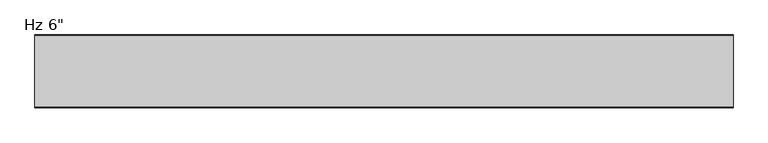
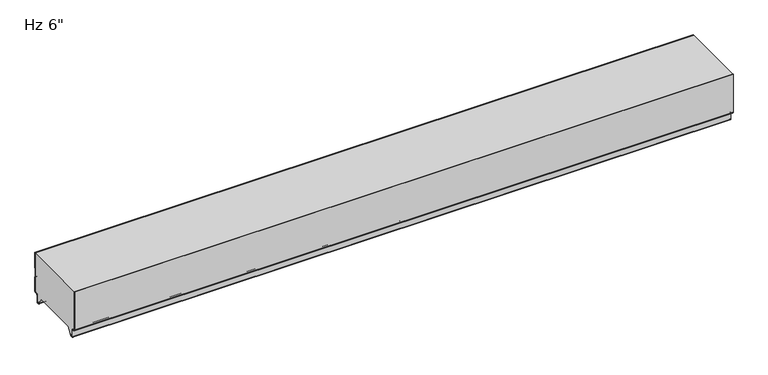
"""IFC4 building model written with IfcOpenShell, lengths in millimetres: plate geometry."""

from ifc_helpers import new_model, si_unit, frame, origin, place, context, project, spatial, polyline, circle_curve, source, transform, mapped, element, save
from ifc_brep_helpers import plane_surface, cylinder_surface, revolved_surface, advanced_brep


def plate_72227fcf(model_context):
    return source(origin(), model_context, "Body", "AdvancedBrep", [
        advanced_brep(
        [(-730.0, -1.0, 59.9218553), (-730.0, -1.0, 94.95), (-730.0, 0.0, 94.95), (-730.0, 0.0, 59.479416), (-730.0, -1.1911595, 58.4068912), (-730.0, -1.1911595, 39.5087751), (-730.0, 0.0, 38.4362503), (-730.0, 0.0, 5.8272193), (-730.0, -2.9772904, 2.8499526), (-730.0, -5.2691742, 2.8499526), (-730.0, -8.2464427, -0.1273159), (-730.0, -8.2464427, -15.7237419), (-730.0, -9.8343193, -17.3116185), (-730.0, -12.905868, -17.3116185), (-730.0, -14.4937445, -15.7237419), (-730.0, -14.4937445, -13.3687064), (-730.0, -13.4937445, -13.3687064), (-730.0, -13.4937445, -15.7237419), (-730.0, -12.905868, -16.3116185), (-730.0, -9.8343193, -16.3116185), (-730.0, -9.2464427, -15.7237419), (-730.0, -9.2464427, -0.1273159), (-730.0, -5.2691742, 3.8499526), (-730.0, -2.9772904, 3.8499526), (-730.0, -1.0000218, 5.82722), (-730.0, -1.0, 37.993811), (-730.0, -2.1911595, 39.0663358), (-730.0, -2.1911595, 58.8493305), (730.0, 0.0, 59.479416), (730.0, 0.0, 94.95), (730.0, -1.0, 94.95), (730.0, -1.0, 59.9218553), (730.0, -2.1911595, 58.8493305), (730.0, -2.1911595, 39.0663358), (730.0, -1.0, 37.993811), (730.0, -1.0, 5.82722), (730.0, -2.9772904, 3.8499526), (730.0, -5.2691742, 3.8499526), (730.0, -9.2464427, -0.1273159), (730.0, -9.2464427, -15.7237419), (730.0, -9.8343193, -16.3116185), (730.0, -12.905868, -16.3116185), (730.0, -13.4937445, -15.7237419), (730.0, -13.4937445, -13.3687064), (730.0, -14.4937445, -13.3687064), (730.0, -14.4937445, -15.7237419), (730.0, -12.905868, -17.3116185), (730.0, -9.8343193, -17.3116185), (730.0, -8.2464427, -15.7237419), (730.0, -8.2464427, -0.1273159), (730.0, -5.2691742, 2.8499526), (730.0, -2.9772904, 2.8499526), (730.0, -2.18e-05, 5.8272193), (730.0, 0.0, 38.4362503), (730.0, -1.1911595, 39.5087751), (730.0, -1.1911595, 58.4068912)],
        [
            (0, 1),
            (1, 2),
            (2, 3),
            (3, 4),
            (4, 5),
            (5, 6),
            (6, 7),
            (7, 8, circle_curve(frame((-730.0, -2.9772904, 5.8272211), z_axis=(-1.0, 0.0, 0.0), x_axis=(0.0, 1.0, 0.0)), 2.9772685)),
            (8, 9),
            (9, 10, circle_curve(frame((-730.0, -5.2691742, -0.1273159), z_axis=(1.0, 0.0, 0.0), x_axis=(0.0, 1.0, 0.0)), 2.9772685)),
            (10, 11),
            (11, 12, circle_curve(frame((-730.0, -9.8343193, -15.7237419), z_axis=(-1.0, 0.0, 0.0), x_axis=(0.0, 1.0, 0.0)), 1.5878765)),
            (12, 13),
            (13, 14, circle_curve(frame((-730.0, -12.905868, -15.7237419), z_axis=(-1.0, 0.0, 0.0), x_axis=(0.0, 1.0, 0.0)), 1.5878765)),
            (14, 15),
            (15, 16),
            (16, 17),
            (17, 18, circle_curve(frame((-730.0, -12.905868, -15.7237419), z_axis=(1.0, 0.0, 0.0), x_axis=(0.0, 1.0, 0.0)), 0.5878765)),
            (18, 19),
            (19, 20, circle_curve(frame((-730.0, -9.8343193, -15.7237419), z_axis=(1.0, 0.0, 0.0), x_axis=(0.0, 1.0, 0.0)), 0.5878765)),
            (20, 21),
            (21, 22, circle_curve(frame((-730.0, -5.2691742, -0.1273159), z_axis=(-1.0, 0.0, 0.0), x_axis=(0.0, 1.0, 0.0)), 3.9772685)),
            (22, 23),
            (23, 24, circle_curve(frame((-730.0, -2.9772904, 5.8272212), z_axis=(1.0, 0.0, 0.0), x_axis=(0.0, 1.0, 0.0)), 1.9772685)),
            (24, 25),
            (25, 26),
            (26, 27),
            (27, 0),
            (28, 29),
            (29, 30),
            (30, 31),
            (31, 32),
            (32, 33),
            (33, 34),
            (34, 35),
            (35, 36, circle_curve(frame((730.0, -2.9772904, 5.8272212), z_axis=(-1.0, 0.0, 0.0), x_axis=(0.0, 1.0, 0.0)), 1.9772685)),
            (36, 37),
            (37, 38, circle_curve(frame((730.0, -5.2691742, -0.1273159), z_axis=(1.0, 0.0, 0.0), x_axis=(0.0, 1.0, 0.0)), 3.9772685)),
            (38, 39),
            (39, 40, circle_curve(frame((730.0, -9.8343193, -15.7237419), z_axis=(-1.0, 0.0, 0.0), x_axis=(0.0, 1.0, 0.0)), 0.5878765)),
            (40, 41),
            (41, 42, circle_curve(frame((730.0, -12.905868, -15.7237419), z_axis=(-1.0, 0.0, 0.0), x_axis=(0.0, 1.0, 0.0)), 0.5878765)),
            (42, 43),
            (43, 44),
            (44, 45),
            (45, 46, circle_curve(frame((730.0, -12.905868, -15.7237419), z_axis=(1.0, 0.0, 0.0), x_axis=(0.0, 1.0, 0.0)), 1.5878765)),
            (46, 47),
            (47, 48, circle_curve(frame((730.0, -9.8343193, -15.7237419), z_axis=(1.0, 0.0, 0.0), x_axis=(0.0, 1.0, 0.0)), 1.5878765)),
            (48, 49),
            (49, 50, circle_curve(frame((730.0, -5.2691742, -0.1273159), z_axis=(-1.0, 0.0, 0.0), x_axis=(0.0, 1.0, 0.0)), 2.9772685)),
            (50, 51),
            (51, 52, circle_curve(frame((730.0, -2.9772904, 5.8272211), z_axis=(1.0, 0.0, 0.0), x_axis=(0.0, 1.0, 0.0)), 2.9772685)),
            (52, 53),
            (53, 54),
            (54, 55),
            (55, 28),
            (30, 1),
            (0, 31),
            (27, 32),
            (26, 33),
            (25, 34),
            (24, 35),
            (23, 36),
            (22, 37),
            (21, 38),
            (20, 39),
            (19, 40),
            (18, 41),
            (17, 42),
            (16, 43),
            (15, 44),
            (14, 45),
            (13, 46),
            (12, 47),
            (11, 48),
            (10, 49),
            (9, 50),
            (8, 51),
            (7, 52),
            (6, 53),
            (5, 54),
            (4, 55),
            (3, 28),
            (2, 29),
        ],
        [
            plane_surface(frame((-730.0, 0.0, 576.2625), z_axis=(-1.0, 0.0, 0.0), x_axis=(0.0, 1.0, 0.0))),
            plane_surface(frame((730.0, 0.0, 576.2625), z_axis=(1.0, 0.0, 0.0), x_axis=(0.0, 1.0, 0.0))),
            plane_surface(frame((-730.0, -1.0, 113.6164312), z_axis=(0.0, -1.0, 0.0), x_axis=(1.0, 0.0, 0.0))),
            plane_surface(frame((-730.0, -1.0, 59.9218553), z_axis=(0.0, -0.6691306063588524, 0.7431448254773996), x_axis=(1.0, 0.0, 0.0))),
            plane_surface(frame((-730.0, -2.1911595, 58.8493305), z_axis=(0.0, -1.0, 0.0), x_axis=(1.0, 0.0, 0.0))),
            plane_surface(frame((-730.0, -2.1911595, 39.0663358), z_axis=(0.0, -0.6691306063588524, -0.7431448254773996), x_axis=(1.0, 0.0, 0.0))),
            plane_surface(frame((-730.0, -1.0, 37.993811), z_axis=(0.0, -1.0, 0.0), x_axis=(1.0, 0.0, 0.0))),
            revolved_surface(polyline([(730.0, -1.0000218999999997, 5.8272212), (-730.0, -1.0000218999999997, 5.8272212)]), (-730.0, -2.9772904, 5.8272212), (1.0, 0.0, 0.0)),
            plane_surface(frame((-730.0, -2.9772904, 3.8499526), z_axis=(0.0, 0.0, 1.0), x_axis=(1.0, 0.0, 0.0))),
            cylinder_surface(frame((-730.0, -5.2691742, -0.1273159), z_axis=(-1.0, 0.0, 0.0), x_axis=(0.0, 1.0, 0.0)), 3.9772685),
            plane_surface(frame((-730.0, -9.2464427, -0.1273159), z_axis=(0.0, -1.0, 0.0), x_axis=(1.0, 0.0, 0.0))),
            revolved_surface(polyline([(730.0, -9.2464428, -15.7237419), (-730.0, -9.2464428, -15.7237419)]), (-730.0, -9.8343193, -15.7237419), (1.0, 0.0, 0.0)),
            plane_surface(frame((-730.0, -9.8343193, -16.3116185), z_axis=(0.0, 0.0, 1.0), x_axis=(1.0, 0.0, 0.0))),
            revolved_surface(polyline([(730.0, -12.3179915, -15.7237419), (-730.0, -12.3179915, -15.7237419)]), (-730.0, -12.905868, -15.7237419), (1.0, 0.0, 0.0)),
            plane_surface(frame((-730.0, -13.4937445, -15.7237419), z_axis=(0.0, 1.0, 0.0), x_axis=(1.0, 0.0, 0.0))),
            plane_surface(frame((-730.0, -13.4937445, -13.3687064), z_axis=(0.0, 0.0, 1.0), x_axis=(1.0, 0.0, 0.0))),
            plane_surface(frame((-730.0, -14.4937445, -13.3687064), z_axis=(0.0, -1.0, 0.0), x_axis=(1.0, 0.0, 0.0))),
            cylinder_surface(frame((-730.0, -12.905868, -15.7237419), z_axis=(-1.0, 0.0, 0.0), x_axis=(0.0, 1.0, 0.0)), 1.5878765),
            plane_surface(frame((-730.0, -12.905868, -17.3116185), z_axis=(0.0, 0.0, -1.0), x_axis=(1.0, 0.0, 0.0))),
            cylinder_surface(frame((-730.0, -9.8343193, -15.7237419), z_axis=(-1.0, 0.0, 0.0), x_axis=(0.0, 1.0, 0.0)), 1.5878765),
            plane_surface(frame((-730.0, -8.2464427, -15.7237419), z_axis=(0.0, 1.0, 0.0), x_axis=(1.0, 0.0, 0.0))),
            revolved_surface(polyline([(730.0, -2.2919057, -0.1273159), (-730.0, -2.2919057, -0.1273159)]), (-730.0, -5.2691742, -0.1273159), (1.0, 0.0, 0.0)),
            plane_surface(frame((-730.0, -5.2691742, 2.8499526), z_axis=(0.0, 0.0, -1.0), x_axis=(1.0, 0.0, 0.0))),
            cylinder_surface(frame((-730.0, -2.9772904, 5.8272211), z_axis=(-1.0, 0.0, 0.0), x_axis=(0.0, 1.0, 0.0)), 2.9772685),
            plane_surface(frame((-730.0, 0.0, 5.8272193), z_axis=(0.0, 1.0, 0.0), x_axis=(1.0, 0.0, 0.0))),
            plane_surface(frame((-730.0, 0.0, 38.4362503), z_axis=(0.0, 0.6691306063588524, 0.7431448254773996), x_axis=(1.0, 0.0, 0.0))),
            plane_surface(frame((-730.0, -1.1911595, 39.5087751), z_axis=(0.0, 1.0, 0.0), x_axis=(1.0, 0.0, 0.0))),
            plane_surface(frame((-730.0, -1.1911595, 58.4068912), z_axis=(0.0, 0.6691306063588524, -0.7431448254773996), x_axis=(1.0, 0.0, 0.0))),
            plane_surface(frame((-730.0, 0.0, 59.479416), z_axis=(0.0, 1.0, 0.0), x_axis=(1.0, 0.0, 0.0))),
            plane_surface(frame((730.0, 10.0, 94.95), z_axis=(0.0, 0.0, 1.0), x_axis=(-1.0, 0.0, 0.0))),
        ],
        [
            (0, [[1, 2, 3, 4, 5, 6, 7, 8, 9, 10, 11, 12, 13, 14, 15, 16, 17, 18, 19, 20, 21, 22, 23, 24, 25, 26, 27, 28]]),
            (1, [[29, 30, 31, 32, 33, 34, 35, 36, 37, 38, 39, 40, 41, 42, 43, 44, 45, 46, 47, 48, 49, 50, 51, 52, 53, 54, 55, 56]]),
            (2, [[-31, 57, -1, 58]]),
            (3, [[59, -32, -58, -28]]),
            (4, [[60, -33, -59, -27]]),
            (5, [[61, -34, -60, -26]]),
            (6, [[62, -35, -61, -25]]),
            (7, [[63, -36, -62, -24]]),
            (8, [[64, -37, -63, -23]]),
            (9, [[65, -38, -64, -22]]),
            (10, [[66, -39, -65, -21]]),
            (11, [[67, -40, -66, -20]]),
            (12, [[68, -41, -67, -19]]),
            (13, [[69, -42, -68, -18]]),
            (14, [[70, -43, -69, -17]]),
            (15, [[71, -44, -70, -16]]),
            (16, [[72, -45, -71, -15]]),
            (17, [[73, -46, -72, -14]]),
            (18, [[74, -47, -73, -13]]),
            (19, [[75, -48, -74, -12]]),
            (20, [[76, -49, -75, -11]]),
            (21, [[77, -50, -76, -10]]),
            (22, [[78, -51, -77, -9]]),
            (23, [[79, -52, -78, -8]]),
            (24, [[80, -53, -79, -7]]),
            (25, [[81, -54, -80, -6]]),
            (26, [[82, -55, -81, -5]]),
            (27, [[83, -56, -82, -4]]),
            (28, [[-3, 84, -29, -83]]),
            (29, [[-57, -30, -84, -2]]),
        ],
    ),
        advanced_brep(
        [(-730.0, -149.4223811, 3.8501063), (-730.0, -147.1308685, 3.8501063), (-730.0, -143.1535232, -0.1272391), (-730.0, -143.1535232, -15.7237514), (-730.0, -142.565666, -16.3116086), (-730.0, -139.4941346, -16.3116086), (-730.0, -138.9062635, -15.7237374), (-730.0, -138.9062635, -13.3687064), (-730.0, -137.9062599, -13.3687064), (-730.0, -137.9062599, -15.7237419), (-730.0, -139.4941364, -17.3116185), (-730.0, -142.5656851, -17.3116185), (-730.0, -144.1535616, -15.7237419), (-730.0, -144.1535616, -0.1273159), (-730.0, -147.1308302, 2.8499526), (-730.0, -149.422714, 2.8499526), (-730.0, -152.3999825, 5.8272211), (-730.0, -152.4, 94.95), (-730.0, -151.3992912, 94.95), (-730.0, -151.3992912, 5.8270163), (730.0, -149.4223811, 3.8501063), (730.0, -151.3992912, 5.8270163), (730.0, -151.3992912, 94.95), (730.0, -152.4, 94.95), (730.0, -152.4, 5.8272211), (730.0, -149.422714, 2.8499526), (730.0, -147.1308302, 2.8499526), (730.0, -144.1535616, -0.1273159), (730.0, -144.1535616, -15.7237419), (730.0, -142.5656851, -17.3116185), (730.0, -139.4941364, -17.3116185), (730.0, -137.9062599, -15.7237419), (730.0, -137.9062599, -13.3687064), (730.0, -138.9062635, -13.3687064), (730.0, -138.9062635, -15.7237374), (730.0, -139.4941346, -16.3116086), (730.0, -142.565666, -16.3116086), (730.0, -143.1535232, -15.7237514), (730.0, -143.1535232, -0.1272391), (730.0, -147.1308685, 3.8501063)],
        [
            (0, 1),
            (1, 2, circle_curve(frame((-730.0, -147.1308685, -0.1272391), z_axis=(-1.0, 0.0, 0.0), x_axis=(0.0, 0.0, -1.0)), 3.9773454)),
            (2, 3),
            (3, 4, circle_curve(frame((-730.0, -142.565666, -15.7237514), z_axis=(1.0, 0.0, 0.0), x_axis=(0.0, 0.0, -1.0)), 0.5878572)),
            (4, 5),
            (5, 6, circle_curve(frame((-730.0, -139.4941346, -15.7237374), z_axis=(1.0, 0.0, 0.0), x_axis=(0.0, 0.0, -1.0)), 0.5878711)),
            (6, 7),
            (7, 8),
            (8, 9),
            (9, 10, circle_curve(frame((-730.0, -139.4941364, -15.7237419), z_axis=(-1.0, 0.0, 0.0), x_axis=(0.0, 0.0, -1.0)), 1.5878765)),
            (10, 11),
            (11, 12, circle_curve(frame((-730.0, -142.5656851, -15.7237419), z_axis=(-1.0, 0.0, 0.0), x_axis=(0.0, 0.0, -1.0)), 1.5878765)),
            (12, 13),
            (13, 14, circle_curve(frame((-730.0, -147.1308302, -0.1273159), z_axis=(1.0, 0.0, 0.0), x_axis=(0.0, 0.0, -1.0)), 2.9772685)),
            (14, 15),
            (15, 16, circle_curve(frame((-730.0, -149.422714, 5.8272211), z_axis=(-1.0, 0.0, 0.0), x_axis=(0.0, 0.0, -1.0)), 2.9772685)),
            (16, 17),
            (17, 18),
            (18, 19),
            (19, 0, circle_curve(frame((-730.0, -149.4223811, 5.8270163), z_axis=(1.0, 0.0, 0.0), x_axis=(0.0, 0.0, -1.0)), 1.9769101)),
            (20, 21, circle_curve(frame((730.0, -149.4223811, 5.8270163), z_axis=(-1.0, 0.0, 0.0), x_axis=(0.0, 0.0, -1.0)), 1.9769101)),
            (21, 22),
            (22, 23),
            (23, 24),
            (24, 25, circle_curve(frame((730.0, -149.422714, 5.8272211), z_axis=(1.0, 0.0, 0.0), x_axis=(0.0, 0.0, -1.0)), 2.9772685)),
            (25, 26),
            (26, 27, circle_curve(frame((730.0, -147.1308302, -0.1273159), z_axis=(-1.0, 0.0, 0.0), x_axis=(0.0, 0.0, -1.0)), 2.9772685)),
            (27, 28),
            (28, 29, circle_curve(frame((730.0, -142.5656851, -15.7237419), z_axis=(1.0, 0.0, 0.0), x_axis=(0.0, 0.0, -1.0)), 1.5878765)),
            (29, 30),
            (30, 31, circle_curve(frame((730.0, -139.4941364, -15.7237419), z_axis=(1.0, 0.0, 0.0), x_axis=(0.0, 0.0, -1.0)), 1.5878765)),
            (31, 32),
            (32, 33),
            (33, 34),
            (34, 35, circle_curve(frame((730.0, -139.4941346, -15.7237374), z_axis=(-1.0, 0.0, 0.0), x_axis=(0.0, 0.0, -1.0)), 0.5878711)),
            (35, 36),
            (36, 37, circle_curve(frame((730.0, -142.565666, -15.7237514), z_axis=(-1.0, 0.0, 0.0), x_axis=(0.0, 0.0, -1.0)), 0.5878572)),
            (37, 38),
            (38, 39, circle_curve(frame((730.0, -147.1308685, -0.1272391), z_axis=(1.0, 0.0, 0.0), x_axis=(0.0, 0.0, -1.0)), 3.9773454)),
            (39, 20),
            (17, 23),
            (22, 18),
            (19, 21),
            (20, 0),
            (16, 24),
            (15, 25),
            (14, 26),
            (13, 27),
            (12, 28),
            (11, 29),
            (10, 30),
            (9, 31),
            (8, 32),
            (7, 33),
            (6, 34),
            (5, 35),
            (4, 36),
            (3, 37),
            (2, 38),
            (1, 39),
        ],
        [
            plane_surface(frame((-730.0, -152.4, 576.2625), z_axis=(-1.0, 0.0, 0.0), x_axis=(0.0, -1.0, 0.0))),
            plane_surface(frame((730.0, -152.4, 576.2625), z_axis=(1.0, 0.0, 0.0), x_axis=(0.0, -1.0, 0.0))),
            plane_surface(frame((730.0, 10.0, 94.95), z_axis=(0.0, 0.0, 1.0), x_axis=(-1.0, 0.0, 0.0))),
            revolved_surface(polyline([(730.0, -149.4223811, 3.8501062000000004), (-730.0, -149.4223811, 3.8501062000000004)]), (-730.0, -149.4223811, 5.8270163), (1.0, 0.0, 0.0)),
            plane_surface(frame((-730.0, -151.3992912, 5.8270163), z_axis=(0.0, 1.0, 0.0), x_axis=(1.0, 0.0, 0.0))),
            plane_surface(frame((-730.0, -152.4, 1150.8100652), z_axis=(0.0, -1.0, 0.0), x_axis=(1.0, 0.0, 0.0))),
            cylinder_surface(frame((-730.0, -149.422714, 5.8272211), z_axis=(-1.0, 0.0, 0.0), x_axis=(0.0, 0.0, -1.0)), 2.9772685),
            plane_surface(frame((-730.0, -149.422714, 2.8499526), z_axis=(0.0, 0.0, -1.0), x_axis=(1.0, 0.0, 0.0))),
            revolved_surface(polyline([(730.0, -147.1308302, -3.1045844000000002), (-730.0, -147.1308302, -3.1045844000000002)]), (-730.0, -147.1308302, -0.1273159), (1.0, 0.0, 0.0)),
            plane_surface(frame((-730.0, -144.1535616, -0.1273159), z_axis=(0.0, -1.0, 0.0), x_axis=(1.0, 0.0, 0.0))),
            cylinder_surface(frame((-730.0, -142.5656851, -15.7237419), z_axis=(-1.0, 0.0, 0.0), x_axis=(0.0, 0.0, -1.0)), 1.5878765),
            plane_surface(frame((-730.0, -142.5656851, -17.3116185), z_axis=(0.0, 0.0, -1.0), x_axis=(1.0, 0.0, 0.0))),
            cylinder_surface(frame((-730.0, -139.4941364, -15.7237419), z_axis=(-1.0, 0.0, 0.0), x_axis=(0.0, 0.0, -1.0)), 1.5878765),
            plane_surface(frame((-730.0, -137.9062599, -15.7237419), z_axis=(0.0, 1.0, 0.0), x_axis=(1.0, 0.0, 0.0))),
            plane_surface(frame((-730.0, -137.9062599, -13.3687064), z_axis=(0.0, 0.0, 1.0), x_axis=(1.0, 0.0, 0.0))),
            plane_surface(frame((-730.0, -138.9062635, -13.3687064), z_axis=(0.0, -1.0, 0.0), x_axis=(1.0, 0.0, 0.0))),
            revolved_surface(polyline([(730.0, -139.4941346, -16.3116085), (-730.0, -139.4941346, -16.3116085)]), (-730.0, -139.4941346, -15.7237374), (1.0, 0.0, 0.0)),
            plane_surface(frame((-730.0, -139.4941346, -16.3116086), z_axis=(0.0, 0.0, 1.0), x_axis=(1.0, 0.0, 0.0))),
            revolved_surface(polyline([(730.0, -142.565666, -16.3116086), (-730.0, -142.565666, -16.3116086)]), (-730.0, -142.565666, -15.7237514), (1.0, 0.0, 0.0)),
            plane_surface(frame((-730.0, -143.1535232, -15.7237514), z_axis=(0.0, 1.0, 0.0), x_axis=(1.0, 0.0, 0.0))),
            cylinder_surface(frame((-730.0, -147.1308685, -0.1272391), z_axis=(-1.0, 0.0, 0.0), x_axis=(0.0, 0.0, -1.0)), 3.9773454),
            plane_surface(frame((-730.0, -147.1308685, 3.8501063), z_axis=(0.0, 0.0, 1.0), x_axis=(1.0, 0.0, 0.0))),
        ],
        [
            (0, [[1, 2, 3, 4, 5, 6, 7, 8, 9, 10, 11, 12, 13, 14, 15, 16, 17, 18, 19, 20]]),
            (1, [[21, 22, 23, 24, 25, 26, 27, 28, 29, 30, 31, 32, 33, 34, 35, 36, 37, 38, 39, 40]]),
            (2, [[41, -23, 42, -18]]),
            (3, [[43, -21, 44, -20]]),
            (4, [[-19, -42, -22, -43]]),
            (5, [[-24, -41, -17, 45]]),
            (6, [[46, -25, -45, -16]]),
            (7, [[47, -26, -46, -15]]),
            (8, [[48, -27, -47, -14]]),
            (9, [[49, -28, -48, -13]]),
            (10, [[50, -29, -49, -12]]),
            (11, [[51, -30, -50, -11]]),
            (12, [[52, -31, -51, -10]]),
            (13, [[53, -32, -52, -9]]),
            (14, [[54, -33, -53, -8]]),
            (15, [[55, -34, -54, -7]]),
            (16, [[56, -35, -55, -6]]),
            (17, [[57, -36, -56, -5]]),
            (18, [[58, -37, -57, -4]]),
            (19, [[59, -38, -58, -3]]),
            (20, [[60, -39, -59, -2]]),
            (21, [[-44, -40, -60, -1]]),
        ],
    ),
        advanced_brep(
        [(-730.0, -149.4227194, 3.8499499), (-730.0, -151.3999935, 5.8272239), (-730.0, -151.4, 94.95), (-730.0, -1.0, 94.95), (-730.0, -1.0, 59.9218553), (-730.0, -2.1911595, 58.8493305), (-730.0, -2.1911595, 39.0663358), (-730.0, -1.0000109, 37.993811), (-730.0, -1.0000109, 5.8272239), (-730.0, -2.9772849, 3.8499499), (-730.0, -5.2691749, 3.8499499), (-730.0, -9.246442, -0.1273173), (-730.0, -9.246442, -15.7237417), (-730.0, -9.8343189, -16.3116186), (-730.0, -12.9058679, -16.3116186), (-730.0, -13.4937446, -15.723742), (-730.0, -13.4937446, -13.3687064), (-730.0, -14.4937446, -13.3687064), (-730.0, -14.4937446, -15.6582851), (-730.0, -23.7509179, 0.0), (-730.0, -128.6490865, 0.0), (-730.0, -137.9062598, -15.6582851), (-730.0, -137.9062598, -13.3687064), (-730.0, -138.9062598, -13.3687064), (-730.0, -138.9062598, -15.723742), (-730.0, -139.4941365, -16.3116186), (-730.0, -142.5656854, -16.3116186), (-730.0, -143.1535623, -15.7237417), (-730.0, -143.1535623, -0.1273173), (-730.0, -147.1308295, 3.8499499), (730.0, -149.4227194, 3.8499499), (730.0, -147.1308295, 3.8499499), (730.0, -143.1535623, -0.1273173), (730.0, -143.1535623, -15.7237417), (730.0, -142.5656854, -16.3116186), (730.0, -139.4941365, -16.3116186), (730.0, -138.9062598, -15.723742), (730.0, -138.9062598, -13.3687064), (730.0, -137.9062598, -13.3687064), (730.0, -137.9062598, -15.6582851), (730.0, -128.6490865, 0.0), (730.0, -23.7509179, 0.0), (730.0, -14.4937446, -15.6582851), (730.0, -14.4937446, -13.3687064), (730.0, -13.4937446, -13.3687064), (730.0, -13.4937446, -15.723742), (730.0, -12.9058679, -16.3116186), (730.0, -9.8343189, -16.3116186), (730.0, -9.246442, -15.7237417), (730.0, -9.246442, -0.1273173), (730.0, -5.2691749, 3.8499499), (730.0, -2.9772849, 3.8499499), (730.0, -1.0000109, 5.8272239), (730.0, -1.0000109, 37.993811), (730.0, -2.1911595, 39.0663358), (730.0, -2.1911595, 58.8493305), (730.0, -1.0, 59.9218553), (730.0, -1.0, 94.95), (730.0, -151.4, 94.95), (730.0, -151.4, 5.8272239)],
        [
            (0, 1, circle_curve(frame((-730.0, -149.4227194, 5.8272239), z_axis=(-1.0, 0.0, 0.0), x_axis=(0.0, 0.0, -1.0)), 1.977274)),
            (1, 2),
            (2, 3),
            (3, 4),
            (4, 5),
            (5, 6),
            (6, 7),
            (7, 8),
            (8, 9, circle_curve(frame((-730.0, -2.9772849, 5.8272239), z_axis=(-1.0, 0.0, 0.0), x_axis=(0.0, 1.0, 0.0)), 1.977274)),
            (9, 10),
            (10, 11, circle_curve(frame((-730.0, -5.2691749, -0.1273173), z_axis=(1.0, 0.0, 0.0), x_axis=(0.0, 1.0, 0.0)), 3.9772671)),
            (11, 12),
            (12, 13, circle_curve(frame((-730.0, -9.8343189, -15.7237417), z_axis=(-1.0, 0.0, 0.0), x_axis=(0.0, 1.0, 0.0)), 0.5878769)),
            (13, 14),
            (14, 15, circle_curve(frame((-730.0, -12.9058679, -15.723742), z_axis=(-1.0, 0.0, 0.0), x_axis=(0.0, 1.0, 0.0)), 0.5878766)),
            (15, 16),
            (16, 17),
            (17, 18),
            (18, 19),
            (19, 20),
            (20, 21),
            (21, 22),
            (22, 23),
            (23, 24),
            (24, 25, circle_curve(frame((-730.0, -139.4941365, -15.723742), z_axis=(-1.0, 0.0, 0.0), x_axis=(0.0, 0.0, -1.0)), 0.5878766)),
            (25, 26),
            (26, 27, circle_curve(frame((-730.0, -142.5656854, -15.7237417), z_axis=(-1.0, 0.0, 0.0), x_axis=(0.0, 0.0, -1.0)), 0.5878769)),
            (27, 28),
            (28, 29, circle_curve(frame((-730.0, -147.1308295, -0.1273173), z_axis=(1.0, 0.0, 0.0), x_axis=(0.0, 0.0, -1.0)), 3.9772671)),
            (29, 0),
            (30, 31),
            (31, 32, circle_curve(frame((730.0, -147.1308295, -0.1273173), z_axis=(-1.0, 0.0, 0.0), x_axis=(0.0, 0.0, -1.0)), 3.9772671)),
            (32, 33),
            (33, 34, circle_curve(frame((730.0, -142.5656854, -15.7237417), z_axis=(1.0, 0.0, 0.0), x_axis=(0.0, 0.0, -1.0)), 0.5878769)),
            (34, 35),
            (35, 36, circle_curve(frame((730.0, -139.4941365, -15.723742), z_axis=(1.0, 0.0, 0.0), x_axis=(0.0, 0.0, -1.0)), 0.5878766)),
            (36, 37),
            (37, 38),
            (38, 39),
            (39, 40),
            (40, 41),
            (41, 42),
            (42, 43),
            (43, 44),
            (44, 45),
            (45, 46, circle_curve(frame((730.0, -12.9058679, -15.723742), z_axis=(1.0, 0.0, 0.0), x_axis=(0.0, 1.0, 0.0)), 0.5878766)),
            (46, 47),
            (47, 48, circle_curve(frame((730.0, -9.8343189, -15.7237417), z_axis=(1.0, 0.0, 0.0), x_axis=(0.0, 1.0, 0.0)), 0.5878769)),
            (48, 49),
            (49, 50, circle_curve(frame((730.0, -5.2691749, -0.1273173), z_axis=(-1.0, 0.0, 0.0), x_axis=(0.0, 1.0, 0.0)), 3.9772671)),
            (50, 51),
            (51, 52, circle_curve(frame((730.0, -2.9772849, 5.8272239), z_axis=(1.0, 0.0, 0.0), x_axis=(0.0, 1.0, 0.0)), 1.977274)),
            (52, 53),
            (53, 54),
            (54, 55),
            (55, 56),
            (56, 57),
            (57, 58),
            (58, 59),
            (59, 30, circle_curve(frame((730.0, -149.4227194, 5.8272239), z_axis=(1.0, 0.0, 0.0), x_axis=(0.0, 0.0, -1.0)), 1.977274)),
            (18, 42),
            (41, 19),
            (17, 43),
            (16, 44),
            (15, 45),
            (14, 46),
            (13, 47),
            (12, 48),
            (11, 49),
            (10, 50),
            (9, 51),
            (8, 52),
            (7, 53),
            (6, 54),
            (5, 55),
            (4, 56),
            (3, 57),
            (40, 20),
            (2, 58),
            (29, 31),
            (30, 0),
            (28, 32),
            (27, 33),
            (26, 34),
            (25, 35),
            (24, 36),
            (23, 37),
            (22, 38),
            (21, 39),
            (1, 59),
        ],
        [
            plane_surface(frame((-730.0, -151.4, 576.2625), z_axis=(-1.0, 0.0, 0.0), x_axis=(0.0, -1.0, 0.0))),
            plane_surface(frame((730.0, -151.4, 576.2625), z_axis=(1.0, 0.0, 0.0), x_axis=(0.0, -1.0, 0.0))),
            plane_surface(frame((-730.0, -23.7509179, 0.0), z_axis=(0.0, -0.8608169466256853, -0.5089147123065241), x_axis=(1.0, 0.0, 0.0))),
            plane_surface(frame((-730.0, -14.4937446, -15.6582851), z_axis=(0.0, 1.0, 0.0), x_axis=(1.0, 0.0, 0.0))),
            plane_surface(frame((-730.0, -14.4937446, -13.3687064), z_axis=(0.0, 0.0, -1.0), x_axis=(1.0, 0.0, 0.0))),
            plane_surface(frame((-730.0, -13.4937446, -13.3687064), z_axis=(0.0, -1.0, 0.0), x_axis=(1.0, 0.0, 0.0))),
            cylinder_surface(frame((-730.0, -12.9058679, -15.723742), z_axis=(-1.0, 0.0, 0.0), x_axis=(0.0, 1.0, 0.0)), 0.5878766),
            plane_surface(frame((-730.0, -12.9058679, -16.3116186), z_axis=(0.0, 0.0, -1.0), x_axis=(1.0, 0.0, 0.0))),
            cylinder_surface(frame((-730.0, -9.8343189, -15.7237417), z_axis=(-1.0, 0.0, 0.0), x_axis=(0.0, 1.0, 0.0)), 0.5878769),
            plane_surface(frame((-730.0, -9.246442, -15.7237417), z_axis=(0.0, 1.0, 0.0), x_axis=(1.0, 0.0, 0.0))),
            revolved_surface(polyline([(730.0, -1.2919078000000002, -0.1273173), (-730.0, -1.2919078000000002, -0.1273173)]), (-730.0, -5.2691749, -0.1273173), (1.0, 0.0, 0.0)),
            plane_surface(frame((-730.0, -5.2691749, 3.8499499), z_axis=(0.0, 0.0, -1.0), x_axis=(1.0, 0.0, 0.0))),
            cylinder_surface(frame((-730.0, -2.9772849, 5.8272239), z_axis=(-1.0, 0.0, 0.0), x_axis=(0.0, 1.0, 0.0)), 1.977274),
            plane_surface(frame((-730.0, -1.0000109, 5.8272239), z_axis=(0.0, 1.0, 0.0), x_axis=(1.0, 0.0, 0.0))),
            plane_surface(frame((-730.0, -1.0000109, 37.993811), z_axis=(0.0, 0.6691339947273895, 0.7431417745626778), x_axis=(1.0, 0.0, 0.0))),
            plane_surface(frame((-730.0, -2.1911595, 39.0663358), z_axis=(0.0, 1.0, 0.0), x_axis=(1.0, 0.0, 0.0))),
            plane_surface(frame((-730.0, -2.1911595, 58.8493305), z_axis=(0.0, 0.6691306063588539, -0.7431448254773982), x_axis=(1.0, 0.0, 0.0))),
            plane_surface(frame((-730.0, -1.0, 59.9218553), z_axis=(0.0, 1.0, 0.0), x_axis=(1.0, 0.0, 0.0))),
            plane_surface(frame((-730.0, -128.6490865, 0.0), z_axis=(0.0, 0.0, -1.0), x_axis=(1.0, 0.0, 0.0))),
            plane_surface(frame((730.0, 10.0, 94.95), z_axis=(0.0, 0.0, 1.0), x_axis=(-1.0, 0.0, 0.0))),
            plane_surface(frame((-730.0, -149.4227194, 3.8499499), z_axis=(0.0, 0.0, -1.0), x_axis=(1.0, 0.0, 0.0))),
            revolved_surface(polyline([(730.0, -147.1308295, -4.1045844), (-730.0, -147.1308295, -4.1045844)]), (-730.0, -147.1308295, -0.1273173), (1.0, 0.0, 0.0)),
            plane_surface(frame((-730.0, -143.1535623, -0.1273173), z_axis=(0.0, -1.0, 0.0), x_axis=(1.0, 0.0, 0.0))),
            cylinder_surface(frame((-730.0, -142.5656854, -15.7237417), z_axis=(-1.0, 0.0, 0.0), x_axis=(0.0, 0.0, -1.0)), 0.5878769),
            plane_surface(frame((-730.0, -142.5656854, -16.3116186), z_axis=(0.0, 0.0, -1.0), x_axis=(1.0, 0.0, 0.0))),
            cylinder_surface(frame((-730.0, -139.4941365, -15.723742), z_axis=(-1.0, 0.0, 0.0), x_axis=(0.0, 0.0, -1.0)), 0.5878766),
            plane_surface(frame((-730.0, -138.9062598, -15.723742), z_axis=(0.0, 1.0, 0.0), x_axis=(1.0, 0.0, 0.0))),
            plane_surface(frame((-730.0, -138.9062598, -13.3687064), z_axis=(0.0, 0.0, -1.0), x_axis=(1.0, 0.0, 0.0))),
            plane_surface(frame((-730.0, -137.9062598, -13.3687064), z_axis=(0.0, -1.0, 0.0), x_axis=(1.0, 0.0, 0.0))),
            plane_surface(frame((-730.0, -137.9062598, -15.6582851), z_axis=(0.0, 0.8608169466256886, -0.5089147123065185), x_axis=(1.0, 0.0, 0.0))),
            plane_surface(frame((-730.0, -151.4, 1150.8100652), z_axis=(0.0, -1.0, 0.0), x_axis=(1.0, 0.0, 0.0))),
            cylinder_surface(frame((-730.0, -149.4227194, 5.8272239), z_axis=(-1.0, 0.0, 0.0), x_axis=(0.0, 0.0, -1.0)), 1.977274),
        ],
        [
            (0, [[1, 2, 3, 4, 5, 6, 7, 8, 9, 10, 11, 12, 13, 14, 15, 16, 17, 18, 19, 20, 21, 22, 23, 24, 25, 26, 27, 28, 29, 30]]),
            (1, [[31, 32, 33, 34, 35, 36, 37, 38, 39, 40, 41, 42, 43, 44, 45, 46, 47, 48, 49, 50, 51, 52, 53, 54, 55, 56, 57, 58, 59, 60]]),
            (2, [[61, -42, 62, -19]]),
            (3, [[63, -43, -61, -18]]),
            (4, [[64, -44, -63, -17]]),
            (5, [[65, -45, -64, -16]]),
            (6, [[66, -46, -65, -15]]),
            (7, [[67, -47, -66, -14]]),
            (8, [[68, -48, -67, -13]]),
            (9, [[69, -49, -68, -12]]),
            (10, [[70, -50, -69, -11]]),
            (11, [[71, -51, -70, -10]]),
            (12, [[72, -52, -71, -9]]),
            (13, [[73, -53, -72, -8]]),
            (14, [[74, -54, -73, -7]]),
            (15, [[75, -55, -74, -6]]),
            (16, [[76, -56, -75, -5]]),
            (17, [[-4, 77, -57, -76]]),
            (18, [[78, -20, -62, -41]]),
            (19, [[79, -58, -77, -3]]),
            (20, [[80, -31, 81, -30]]),
            (21, [[82, -32, -80, -29]]),
            (22, [[83, -33, -82, -28]]),
            (23, [[84, -34, -83, -27]]),
            (24, [[85, -35, -84, -26]]),
            (25, [[86, -36, -85, -25]]),
            (26, [[87, -37, -86, -24]]),
            (27, [[88, -38, -87, -23]]),
            (28, [[89, -39, -88, -22]]),
            (29, [[-78, -40, -89, -21]]),
            (30, [[-59, -79, -2, 90]]),
            (31, [[-81, -60, -90, -1]]),
        ],
    ),
    ])


if __name__ == "__main__":
    model = new_model("IFC4")
    model_context = context("Model", 3, world=origin())
    ifc_project = project(units=[si_unit("LENGTHUNIT", "METRE", prefix="MILLI")], contexts=[model_context])
    site = spatial("IfcSite", under=ifc_project)
    building = spatial("IfcBuilding", under=site)
    placement = place(None, origin())
    plate_shape = plate_72227fcf(model_context)
    element("IfcPlate", 1, ObjectType="KIP-SLI-FLI-R19-CP-Hz-FL_SL : Hz 6\"", at=placement, inside=building, context=model_context, shape_type="MappedRepresentation", body=[
        mapped(plate_shape, transform((0.0, 0.0, 0.0), x_axis=(1.0, 0.0, 0.0), y_axis=(0.0, 1.0, 0.0), z_axis=(0.0, 0.0, 1.0))),
    ])
    save(model, "model.ifc")
